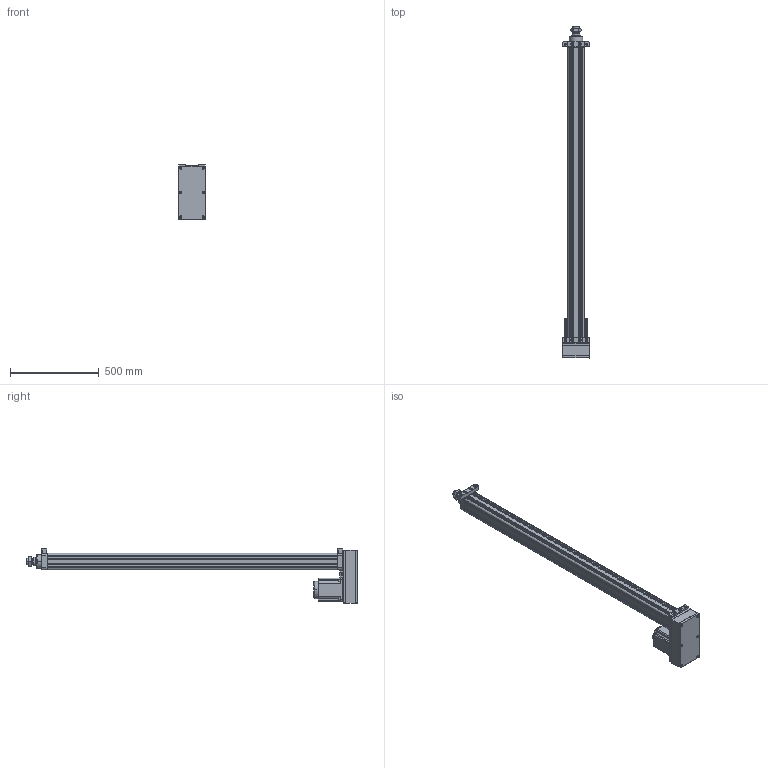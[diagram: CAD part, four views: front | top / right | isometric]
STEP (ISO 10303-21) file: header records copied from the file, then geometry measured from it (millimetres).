
FILE_DESCRIPTION((''),'2;1');
FILE_NAME('HE80-D-P_ASM','2020-04-24T',('ASUS20200'),(''),'CREO PARAMETRIC BY PTC INC, 2014190','CREO PARAMETRIC BY PTC INC, 2014190','');
FILE_SCHEMA(('CONFIG_CONTROL_DESIGN'));
Length unit declared in the file: millimetre
Products named in the file (29): HE80-D-P-001-X1; HE80-D-P-002-X1; HE80-D-P-003-X1; 30304J; YZ-M6X1; SLM-01; JDB506030; HE80-100-D-P-X1_ASM; HE80-P-010-X1-130N; 130ST-M10010; M10X25; HE80-P-009-X1-130N; HE80-P-013-X1-130N; TD-8; M8X35; M8X75; LM-M8-7-5; M10X1-25-40; LM-M10-30; LM-M10; HE80-D-P-005-X1; HE80-D-P-004-X1; HE80-D-P-008-X1; LGLM-M10-25; HE80-P-015-X1; HE80-P-016-X1; TD-10; M10X35; HE80-D-P_ASM
Assembly tree (55 placements, depth 3):
  HE80-D-P_ASM
    HE80-100-D-P-X1_ASM
      HE80-D-P-001-X1
      HE80-D-P-002-X1
      HE80-D-P-003-X1
      30304J  x2
      YZ-M6X1
      SLM-01
      JDB506030
    HE80-P-010-X1-130N
    130ST-M10010
    M10X25  x4
    HE80-P-009-X1-130N
    HE80-P-013-X1-130N
    TD-8  x4
    M8X35  x4
    M8X75  x6
    LM-M8-7-5  x4
    M10X1-25-40
    LM-M10-30
    LM-M10
    HE80-D-P-005-X1
    HE80-D-P-004-X1
    HE80-D-P-008-X1
    LGLM-M10-25  x4
    HE80-P-015-X1
    HE80-P-016-X1
    TD-10  x4
    M10X35  x4
Bounding box: 150 x 1874 x 306.5 mm (x, y, z)
Volume: 8886171.7 mm3; surface area: 2552857.5 mm2
Topology: 54 solids, 88 shells, 2294 faces, 5288 edges, 3221 vertices
Faces by surface type: plane 882, cone 648, cylinder 600, torus 134, sphere 26, bspline 4
Entity records: 50383 total; most frequent: CARTESIAN_POINT 9845, DIRECTION 8937, ORIENTED_EDGE 7758, EDGE_CURVE 3938, AXIS2_PLACEMENT_3D 3404, VERTEX_POINT 2396, VECTOR 2129, LINE 2129
